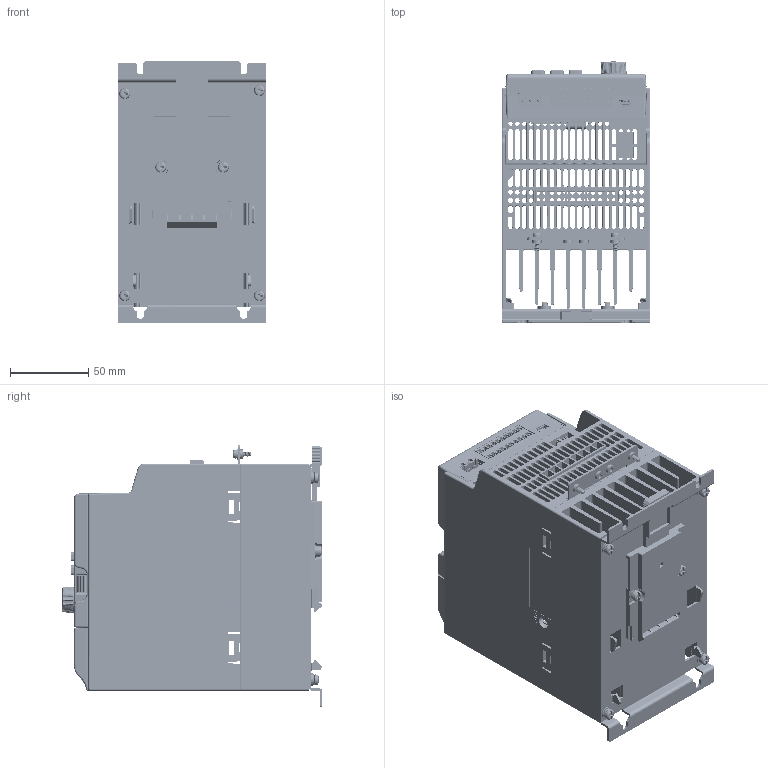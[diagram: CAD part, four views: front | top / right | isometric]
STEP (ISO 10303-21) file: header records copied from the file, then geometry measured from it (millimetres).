
FILE_DESCRIPTION((''),'2;1');
FILE_NAME('00_B_5_ASM_1_ASM','2018-06-25T11:47:37',('zhi2xi'),(''),'CREO PARAMETRIC BY PTC INC, 2017260','CREO PARAMETRIC BY PTC INC, 2017260','');
FILE_SCHEMA(('AUTOMOTIVE_DESIGN { 1 0 10303 214 1 1 1 1 }'));
Products named in the file (53): R912005502_1; EFC5610_0K4_CASE_RE_1; MANIFOLD_SOLID_BREP_14099; MANIFOLD_SOLID_BREP_14301; MANIFOLD_SOLID_BREP_14503; MANIFOLD_SOLID_BREP_14705; MANIFOLD_SOLID_BREP_14907; B_5_DIBAN_1_ASM; LDZHJ_SZCYZT_M4X10_1; PL_EFC5610_IOCAE_CONVER; LK_YCP06-PLATINE; CPU_CONNECTOR-14P; CONNECTOR; CONNECTOR_TYCO-331; 548190519; CONNECT2-2; 2185-205SY3; 1155590000; LK_YCP06; DB272710; 01-IOBACK_CASE; LD_KCCT_M3X10; 01-IOCASE; 01_DISPLAYCASE_1; DISPLAY_PCB1_1; R911329772_1; R911330025_1; LED_1; CONNECTOR2_1; CONNECTOR_TYCO-331_1; DISPLAY_PCB_ASM_1_ASM; BACK_CASE1_1; R911330333_FOLIE_1; BUUTTON_1; XUAN_NIU_1; LD_KCCT_M3X10_1; LABEL_15X50_1; 02-DISPLAY-CASE_ASM_1_ASM; PRT0010_1; PRT0031_1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
Assembly tree (65 placements, depth 4):
  00_B_5_ASM_1_ASM
    R912005502_1
    EFC5610_0K4_CASE_RE_1
    B_5_DIBAN_1_ASM
      MANIFOLD_SOLID_BREP_14099
      MANIFOLD_SOLID_BREP_14301
      MANIFOLD_SOLID_BREP_14503
      MANIFOLD_SOLID_BREP_14705
      MANIFOLD_SOLID_BREP_14907
    LDZHJ_SZCYZT_M4X10_1  x6
    01-IOCASE
      PL_EFC5610_IOCAE_CONVER
      LK_YCP06
        LK_YCP06-PLATINE
        CPU_CONNECTOR-14P
        CONNECTOR
        CONNECTOR_TYCO-331
        548190519
        CONNECT2-2
        2185-205SY3
        1155590000
      DB272710
      01-IOBACK_CASE
      LD_KCCT_M3X10  x2
    02-DISPLAY-CASE_ASM_1_ASM
      01_DISPLAYCASE_1
      DISPLAY_PCB_ASM_1_ASM
        DISPLAY_PCB1_1
        R911329772_1  x6
        R911330025_1
        LED_1
        CONNECTOR2_1
        CONNECTOR_TYCO-331_1
      BACK_CASE1_1
      R911330333_FOLIE_1
      BUUTTON_1
      XUAN_NIU_1
      LD_KCCT_M3X10_1  x2
      LABEL_15X50_1
    ASM0003_ASM_1_ASM
      PRT0010_1
      PRT0031_1
    GND_1_ASM
      MANIFOLD_SOLID_BREP_410361
      MANIFOLD_SOLID_BREP_410618
      MANIFOLD_SOLID_BREP_410875
      MANIFOLD_SOLID_BREP_411132
      MANIFOLD_SOLID_BREP_411389
      MANIFOLD_SOLID_BREP_411646
      MANIFOLD_SOLID_BREP_411903
      MANIFOLD_SOLID_BREP_412160
      MANIFOLD_SOLID_BREP_412417
    LDZHJ_SZCYZT_M3X10_1  x2
Bounding box: 95 x 166.55 x 167.5 mm (x, y, z)
Volume: 472768.5 mm3; surface area: 441005 mm2
Topology: 58 solids, 64 shells, 9838 faces, 25957 edges, 16399 vertices
Faces by surface type: plane 5540, cylinder 2405, bspline 1098, torus 355, cone 221, sphere 145, extrusion 74
Entity records: 404436 total; most frequent: CARTESIAN_POINT 123719, ORIENTED_EDGE 46088, DIRECTION 41090, EDGE_CURVE 23044, PRESENTATION_STYLE_ASSIGNMENT 16737, VECTOR 15908, LINE 15841, VERTEX_POINT 14610
